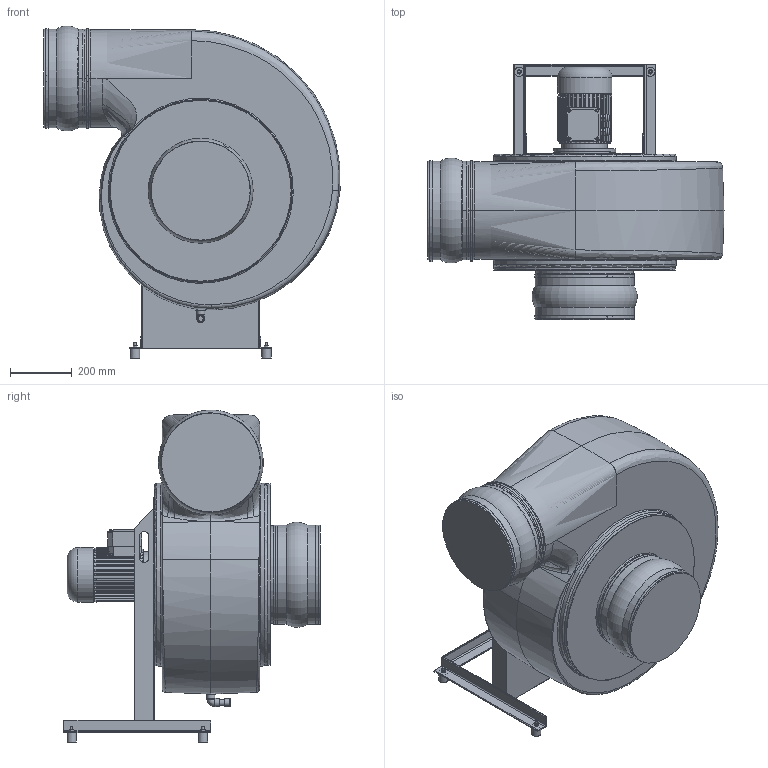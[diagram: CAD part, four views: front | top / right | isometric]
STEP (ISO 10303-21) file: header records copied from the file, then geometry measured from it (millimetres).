
FILE_DESCRIPTION( ( 'Unknown' ), '1' );
FILE_NAME( 'K:/HOME/HLT_CAD/Z/HF/3D/Zusammenstellung/HFR/HFR 15_17/HFR...-15D/DS_1/HFR_315-15D/GR90/HFR_315-15D_DS1_GR_090_090.stp', 'Unknown', ( 'Unknown' ), ( 'Unknown' ), 'PSStep 14.0', 'Unknown', ' ' );
FILE_SCHEMA( ( 'AUTOMOTIVE_DESIGN { 1 0 10303 214 1 1 1 1 }' ) );
Length unit declared in the file: millimetre
Products named in the file (31): 5159_Kondensatablauf_125-315; Winkel_90°_G1_2; Stopfen_G1_2-oa4; Rohr_20; Verschlusskappe_20; 5158_Gehäusedeckel_315; 5158_Rohr; GD_FL 315; 315; 5158_Rohr_250; 5326_Gestell_HFR_315_15_D_DS1; 360-oa0; Angle 40x40x4-oa1; Angle 40x40x4-oa2; Angle 40x40x4-oa3; HFR 315_GR; Ensat-Buchse-M8; 6203_Kugelmanschette; 6203_Schelle_HFR315; 6203_Manschettenband_HFR315; 5217_Laufradbefestigung; 5217_Drehteil; 5217_Flachdichtung_Ø32; 5217_Schraubkappe; 5217_Flachdichtung_Ø63; Assem1; 6611_Motorring_Bg80; Schwidä_30x30; 6kant_M8; B5_90L_2HIHI
Assembly tree (94 placements, depth 3):
  Assem1
    6611_Motorring_Bg80
    Schwidä_30x30  x4
    6kant_M8  x4
    B5_90L_2HIHI
    5326_Gestell_HFR_315_15_D_DS1
      360-oa0
      Angle 40x40x4-oa1
      Angle 40x40x4-oa2
      Angle 40x40x4-oa3
    HFR 315_GR
      HFR 315_GR
      Ensat-Buchse-M8  x56
    5158_Gehäusedeckel_315
      5158_Rohr
      GD_FL 315
      315  x2
      5158_Rohr_250
    5159_Kondensatablauf_125-315
      Winkel_90°_G1_2
      Stopfen_G1_2-oa4
      Rohr_20
      Verschlusskappe_20
    6203_Kugelmanschette  x2
      6203_Schelle_HFR315
      6203_Manschettenband_HFR315
    5217_Laufradbefestigung
      5217_Drehteil
      5217_Flachdichtung_Ø32
      5217_Schraubkappe
      5217_Flachdichtung_Ø63
Bounding box: 955.86 x 827 x 1071.9 mm (x, y, z)
Volume: 242014596.1 mm3; surface area: 5216898.6 mm2
Topology: 90 solids, 90 shells, 1872 faces, 3857 edges, 2499 vertices
Faces by surface type: plane 1054, cylinder 651, cone 113, bspline 30, torus 16, revolution 8
Full cylindrical faces by diameter (mm): 6.647 x65, 8 x8, 9 x2, 10 x4, 10.5 x1, 11 x8, 12 x165, 13 x169, 15 x4, 16 x6, 17 x1, 20 x4, 20.955 x1, 22.212 x1, 23 x1, 24 x5, 25 x1, 26.5 x2, 28.8 x1, 30 x4, 30.291 x1, 32 x1, 33.25 x1, 37 x1, 40 x1, 44 x1, 52 x1, 53 x1, 63 x1, 65 x1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
Entity records: 62106 total; most frequent: CARTESIAN_POINT 24854, DIRECTION 5681, ORIENTED_EDGE 4994, EDGE_CURVE 2497, AXIS2_PLACEMENT_3D 2173, VERTEX_POINT 1712, EDGE_LOOP 1700, FACE_OUTER_BOUND 1429
